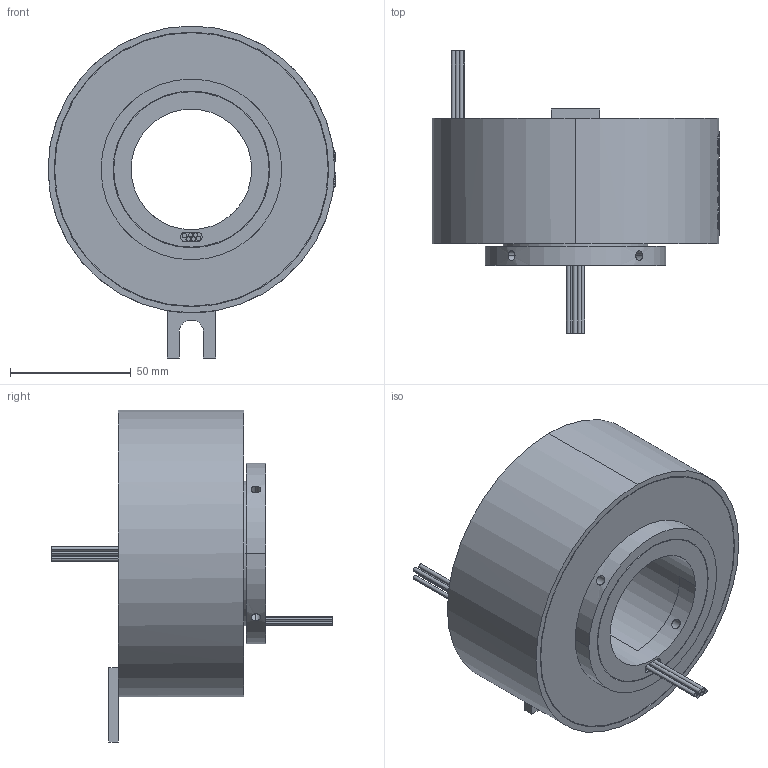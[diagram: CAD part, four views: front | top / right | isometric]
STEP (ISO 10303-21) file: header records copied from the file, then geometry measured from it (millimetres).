
FILE_DESCRIPTION(/* description */ (''),/* implementation_level */ '2;1');
FILE_NAME(/* name */ 'HD50119-0610.stp',/* time_stamp */ '2025-01-19T09:49:10+08:00',/* author */ (''),/* organization */ (''),/* preprocessor_version */ 'ST-DEVELOPER v16.7',/* originating_system */ 'SIEMENS PLM Software NX 12.0',/* authorisation */ '');
FILE_SCHEMA (('AUTOMOTIVE_DESIGN { 1 0 10303 214 3 1 1 1 }'));
Length unit declared in the file: millimetre
Products named in the file (1): HX05089CE4B9b9m4
Bounding box: 119.49 x 117 x 137.75 mm (x, y, z)
Volume: 498186 mm3; surface area: 62666.4 mm2
Topology: 1 solids, 1 shells, 434 faces, 1090 edges, 728 vertices
Faces by surface type: plane 228, extrusion 88, cylinder 85, bspline 29, torus 4
Entity records: 26611 total; most frequent: CARTESIAN_POINT 17167, ORIENTED_EDGE 2146, DIRECTION 1476, EDGE_CURVE 1073, VERTEX_POINT 728, B_SPLINE_CURVE_WITH_KNOTS 677, AXIS2_PLACEMENT_3D 586, EDGE_LOOP 533
